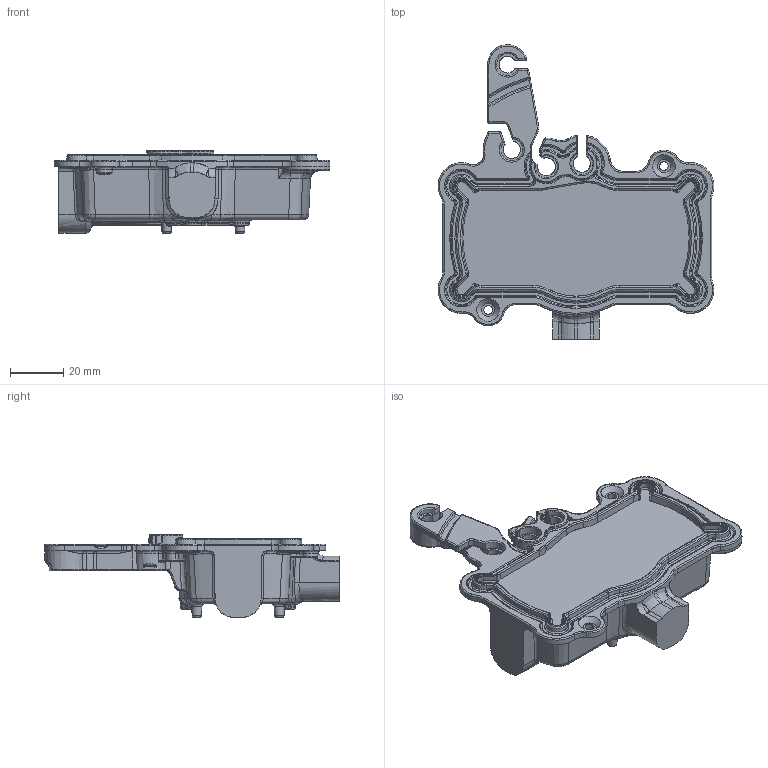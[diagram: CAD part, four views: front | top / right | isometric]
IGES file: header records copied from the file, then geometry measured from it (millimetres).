
Start section: --------------------------------------------------------------------- IGES file generated by CADlook_v12.0.  Visit http://www.cadlook.com for more information on CADlook translators and viewers. ---------------------------------------------------------------------
Global section: file name: D:\File_clienti\Brasile\Fischer\Cop_TC_02-A3.igs; native system: Cimatron E 9.0; preprocessor: CADlook_v12.0; author: aquintaba; organization: None; date: 20100422.125352; units: millimetre
Bounding box: 103.61 x 110.59 x 31 mm (x, y, z)
Surface area: 23050.8 mm2 (no closed solid volume)
Topology: 0 solids, 0 shells, 1248 faces, 8452 edges, 9801 vertices
Faces by surface type: bspline 729, revolution 519
